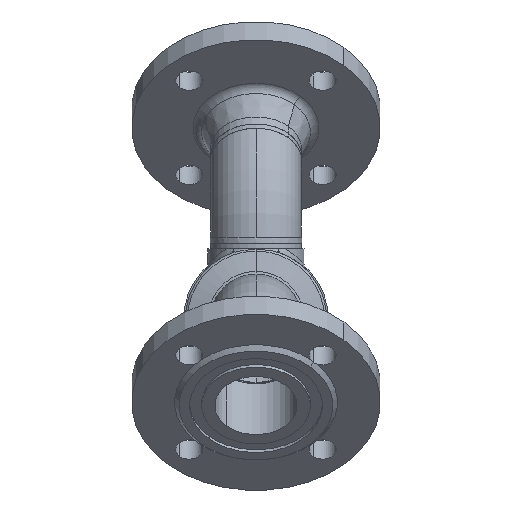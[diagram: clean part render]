
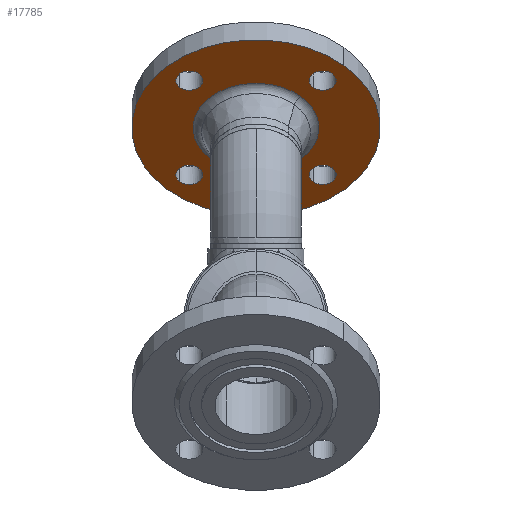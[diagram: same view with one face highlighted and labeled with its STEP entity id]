
A CAD part, front view. The second image highlights one B-rep face of the part: STEP entity #17785.
In plain terms, the highlighted planar face has unit normal (0, -0.707, -0.707) as drawn and (0, 1, 0) by its records, which use the part's own axes.
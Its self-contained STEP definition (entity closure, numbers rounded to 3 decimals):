
#16539 = VERTEX_POINT ( 'NONE', #49620 ) ;
#199 = VERTEX_POINT ( 'NONE', #39132 ) ;
#49620 = CARTESIAN_POINT ( 'NONE',  ( 41.687, 20., 0. ) ) ;
#17785 = ADVANCED_FACE ( 'NONE', ( #4178, #4179, #4180, #4181, #4182, #4183 ), #4184, .F. ) ;
#50550 = EDGE_CURVE ( 'NONE', #13104, #16539, #4009, .T. ) ;
#50814 = EDGE_CURVE ( 'NONE', #5663, #8634, #7231, .T. ) ;
#1792 = EDGE_LOOP ( 'NONE', ( #29678, #52560 ) ) ;
#51279 = ORIENTED_EDGE ( 'NONE', *, *, #50814, .F. ) ;
#34942 = EDGE_LOOP ( 'NONE', ( #7889, #38713 ) ) ;
#35040 = ORIENTED_EDGE ( 'NONE', *, *, #19979, .F. ) ;
#51808 = VERTEX_POINT ( 'NONE', #8929 ) ;
#51809 = EDGE_CURVE ( 'NONE', #199, #21573, #8930, .T. ) ;
#2734 = EDGE_LOOP ( 'NONE', ( #27590, #26393 ) ) ;
#52017 = VERTEX_POINT ( 'NONE', #9267 ) ;
#2939 = CIRCLE ( 'NONE', #2940, 82.5 ) ;
#2940 = AXIS2_PLACEMENT_3D ( 'NONE', #2941, #2942, #2943 ) ;
#2941 = CARTESIAN_POINT ( 'NONE',  ( 0., 20., 0. ) ) ;
#2942 = DIRECTION ( 'NONE',  ( 0., 1., 0. ) ) ;
#2943 = DIRECTION ( 'NONE',  ( -1., 0., 0. ) ) ;
#52560 = ORIENTED_EDGE ( 'NONE', *, *, #23514, .F. ) ;
#36330 = EDGE_CURVE ( 'NONE', #53162, #8535, #9460, .T. ) ;
#19979 = EDGE_CURVE ( 'NONE', #21573, #199, #8700, .T. ) ;
#4009 = CIRCLE ( 'NONE', #4010, 41.687 ) ;
#4010 = AXIS2_PLACEMENT_3D ( 'NONE', #4011, #4012, #4013 ) ;
#4011 = CARTESIAN_POINT ( 'NONE',  ( 0., 20., 0. ) ) ;
#4012 = DIRECTION ( 'NONE',  ( 0., 1., 0. ) ) ;
#4013 = DIRECTION ( 'NONE',  ( -1., 0., 0. ) ) ;
#53162 = VERTEX_POINT ( 'NONE', #27587 ) ;
#53165 = EDGE_CURVE ( 'NONE', #8535, #53162, #27632, .T. ) ;
#4178 = FACE_BOUND ( 'NONE', #1792, .T. ) ;
#4179 = FACE_BOUND ( 'NONE', #34942, .T. ) ;
#4180 = FACE_BOUND ( 'NONE', #14891, .T. ) ;
#4181 = FACE_BOUND ( 'NONE', #46869, .T. ) ;
#4182 = FACE_BOUND ( 'NONE', #2734, .T. ) ;
#4183 = FACE_OUTER_BOUND ( 'NONE', #26045, .T. ) ;
#4184 = PLANE ( 'NONE',  #4185 ) ;
#4185 = AXIS2_PLACEMENT_3D ( 'NONE', #4186, #4187, #4188 ) ;
#4186 = CARTESIAN_POINT ( 'NONE',  ( 82.5, 20., 0. ) ) ;
#4187 = DIRECTION ( 'NONE',  ( 0., -1., 0. ) ) ;
#4188 = DIRECTION ( 'NONE',  ( 1., 0., 0. ) ) ;
#21573 = VERTEX_POINT ( 'NONE', #24822 ) ;
#38218 = VERTEX_POINT ( 'NONE', #44832 ) ;
#5663 = VERTEX_POINT ( 'NONE', #6366 ) ;
#38713 = ORIENTED_EDGE ( 'NONE', *, *, #36330, .F. ) ;
#6209 = EDGE_CURVE ( 'NONE', #52017, #38218, #7305, .T. ) ;
#6259 = EDGE_CURVE ( 'NONE', #8634, #5663, #7354, .T. ) ;
#6366 = CARTESIAN_POINT ( 'NONE',  ( 53.5, 20., 0. ) ) ;
#39132 = CARTESIAN_POINT ( 'NONE',  ( 9., 20., 62.5 ) ) ;
#22920 = VERTEX_POINT ( 'NONE', #8528 ) ;
#23514 = EDGE_CURVE ( 'NONE', #51808, #22920, #9373, .T. ) ;
#7231 = CIRCLE ( 'NONE', #7232, 9. ) ;
#7232 = AXIS2_PLACEMENT_3D ( 'NONE', #7233, #7234, #7235 ) ;
#23614 = ORIENTED_EDGE ( 'NONE', *, *, #6209, .T. ) ;
#7233 = CARTESIAN_POINT ( 'NONE',  ( 62.5, 20., 0. ) ) ;
#7234 = DIRECTION ( 'NONE',  ( 0., 1., 0. ) ) ;
#7235 = DIRECTION ( 'NONE',  ( -1., 0., 0. ) ) ;
#7305 = CIRCLE ( 'NONE', #7306, 82.5 ) ;
#7306 = AXIS2_PLACEMENT_3D ( 'NONE', #7307, #7308, #7309 ) ;
#7307 = CARTESIAN_POINT ( 'NONE',  ( 0., 20., 0. ) ) ;
#7308 = DIRECTION ( 'NONE',  ( 0., 1., 0. ) ) ;
#7309 = DIRECTION ( 'NONE',  ( -1., 0., 0. ) ) ;
#7354 = CIRCLE ( 'NONE', #7355, 9. ) ;
#7355 = AXIS2_PLACEMENT_3D ( 'NONE', #7356, #7357, #7358 ) ;
#7356 = CARTESIAN_POINT ( 'NONE',  ( 62.5, 20., 0. ) ) ;
#7357 = DIRECTION ( 'NONE',  ( 0., 1., 0. ) ) ;
#7358 = DIRECTION ( 'NONE',  ( -1., 0., 0. ) ) ;
#23828 = CARTESIAN_POINT ( 'NONE',  ( -71.5, 20., 0. ) ) ;
#23933 = CARTESIAN_POINT ( 'NONE',  ( 71.5, 20., 0. ) ) ;
#7889 = ORIENTED_EDGE ( 'NONE', *, *, #53165, .F. ) ;
#24822 = CARTESIAN_POINT ( 'NONE',  ( -9., 20., 62.5 ) ) ;
#8528 = CARTESIAN_POINT ( 'NONE',  ( -9., 20., -62.5 ) ) ;
#8535 = VERTEX_POINT ( 'NONE', #23828 ) ;
#8634 = VERTEX_POINT ( 'NONE', #23933 ) ;
#8700 = CIRCLE ( 'NONE', #8701, 9. ) ;
#8701 = AXIS2_PLACEMENT_3D ( 'NONE', #8736, #8737, #8738 ) ;
#8736 = CARTESIAN_POINT ( 'NONE',  ( 0., 20., 62.5 ) ) ;
#8737 = DIRECTION ( 'NONE',  ( 0., 1., 0. ) ) ;
#8738 = DIRECTION ( 'NONE',  ( 0., 0., -1. ) ) ;
#8929 = CARTESIAN_POINT ( 'NONE',  ( 9., 20., -62.5 ) ) ;
#8930 = CIRCLE ( 'NONE', #8931, 9. ) ;
#8931 = AXIS2_PLACEMENT_3D ( 'NONE', #8932, #8933, #8967 ) ;
#8932 = CARTESIAN_POINT ( 'NONE',  ( 0., 20., 62.5 ) ) ;
#8933 = DIRECTION ( 'NONE',  ( 0., 1., 0. ) ) ;
#8967 = DIRECTION ( 'NONE',  ( 0., 0., -1. ) ) ;
#9267 = CARTESIAN_POINT ( 'NONE',  ( 82.5, 20., 0. ) ) ;
#9373 = CIRCLE ( 'NONE', #9374, 9. ) ;
#9374 = AXIS2_PLACEMENT_3D ( 'NONE', #9375, #9376, #9377 ) ;
#9375 = CARTESIAN_POINT ( 'NONE',  ( 0., 20., -62.5 ) ) ;
#9376 = DIRECTION ( 'NONE',  ( 0., 1., 0. ) ) ;
#9377 = DIRECTION ( 'NONE',  ( 0., 0., 1. ) ) ;
#9460 = CIRCLE ( 'NONE', #9461, 9. ) ;
#9461 = AXIS2_PLACEMENT_3D ( 'NONE', #9462, #9463, #9464 ) ;
#9462 = CARTESIAN_POINT ( 'NONE',  ( -62.5, 20., 0. ) ) ;
#9463 = DIRECTION ( 'NONE',  ( 0., 1., 0. ) ) ;
#9464 = DIRECTION ( 'NONE',  ( 1., 0., 0. ) ) ;
#26045 = EDGE_LOOP ( 'NONE', ( #13502, #23614 ) ) ;
#26393 = ORIENTED_EDGE ( 'NONE', *, *, #13706, .F. ) ;
#27587 = CARTESIAN_POINT ( 'NONE',  ( -53.5, 20., 0. ) ) ;
#27590 = ORIENTED_EDGE ( 'NONE', *, *, #50550, .F. ) ;
#27632 = CIRCLE ( 'NONE', #27633, 9. ) ;
#27633 = AXIS2_PLACEMENT_3D ( 'NONE', #27634, #27635, #27636 ) ;
#27634 = CARTESIAN_POINT ( 'NONE',  ( -62.5, 20., 0. ) ) ;
#27635 = DIRECTION ( 'NONE',  ( 0., 1., 0. ) ) ;
#27636 = DIRECTION ( 'NONE',  ( 1., 0., 0. ) ) ;
#44832 = CARTESIAN_POINT ( 'NONE',  ( -82.5, 20., 0. ) ) ;
#28633 = CIRCLE ( 'NONE', #28634, 9. ) ;
#28634 = AXIS2_PLACEMENT_3D ( 'NONE', #28635, #28636, #28672 ) ;
#28635 = CARTESIAN_POINT ( 'NONE',  ( 0., 20., -62.5 ) ) ;
#28636 = DIRECTION ( 'NONE',  ( 0., 1., 0. ) ) ;
#28672 = DIRECTION ( 'NONE',  ( 0., 0., 1. ) ) ;
#45284 = CARTESIAN_POINT ( 'NONE',  ( -41.687, 20., 0. ) ) ;
#12609 = EDGE_CURVE ( 'NONE', #22920, #51808, #28633, .T. ) ;
#45614 = CIRCLE ( 'NONE', #45615, 41.687 ) ;
#45615 = AXIS2_PLACEMENT_3D ( 'NONE', #45616, #45617, #45618 ) ;
#45616 = CARTESIAN_POINT ( 'NONE',  ( 0., 20., 0. ) ) ;
#45617 = DIRECTION ( 'NONE',  ( 0., 1., 0. ) ) ;
#45618 = DIRECTION ( 'NONE',  ( -1., 0., 0. ) ) ;
#13104 = VERTEX_POINT ( 'NONE', #45284 ) ;
#29678 = ORIENTED_EDGE ( 'NONE', *, *, #12609, .F. ) ;
#13502 = ORIENTED_EDGE ( 'NONE', *, *, #30128, .T. ) ;
#13706 = EDGE_CURVE ( 'NONE', #16539, #13104, #45614, .T. ) ;
#30128 = EDGE_CURVE ( 'NONE', #38218, #52017, #2939, .T. ) ;
#46607 = ORIENTED_EDGE ( 'NONE', *, *, #6259, .F. ) ;
#46869 = EDGE_LOOP ( 'NONE', ( #51279, #46607 ) ) ;
#14891 = EDGE_LOOP ( 'NONE', ( #35040, #47726 ) ) ;
#47726 = ORIENTED_EDGE ( 'NONE', *, *, #51809, .F. ) ;
